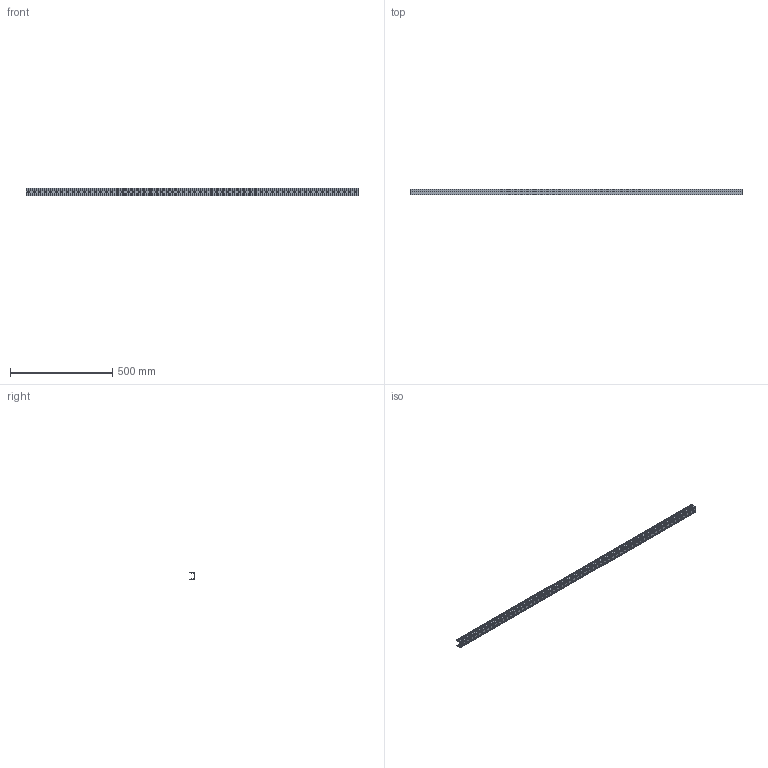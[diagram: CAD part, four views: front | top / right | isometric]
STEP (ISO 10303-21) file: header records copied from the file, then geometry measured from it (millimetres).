
FILE_DESCRIPTION( ( 'STEP AP203' ), '1' );
FILE_NAME( 'C:/Temp/Ganter_Step_05_03_2020/data/3_8/gn_646_3/Carrier profile GN 646.3-1620-B (15).stp', '2020-03-12T15:24:27', ( 'License CC BY-ND 4.0' ), ( 'CADENAS' ), ' ', 'PARTsolutions', ' ' );
FILE_SCHEMA( ( 'CONFIG_CONTROL_DESIGN' ) );
Length unit declared in the file: millimetre
Products named in the file (1): _Carrier profile GN 646.3-1620-B (15)
Bounding box: 1620 x 26.5 x 36 mm (x, y, z)
Volume: 267125.5 mm3; surface area: 337596.7 mm2
Topology: 1 solids, 1 shells, 352 faces, 1050 edges, 700 vertices
Faces by surface type: plane 190, cylinder 162
Entity records: 12182 total; most frequent: CARTESIAN_POINT 2103, ORIENTED_EDGE 2100, DIRECTION 2080, EDGE_CURVE 1050, LINE 726, VECTOR 726, VERTEX_POINT 700, AXIS2_PLACEMENT_3D 677
